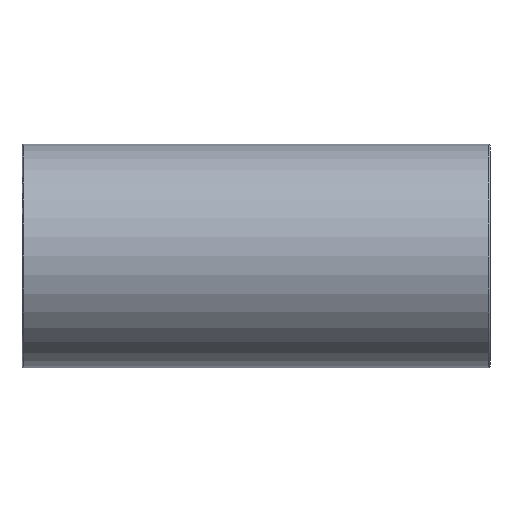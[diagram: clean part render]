
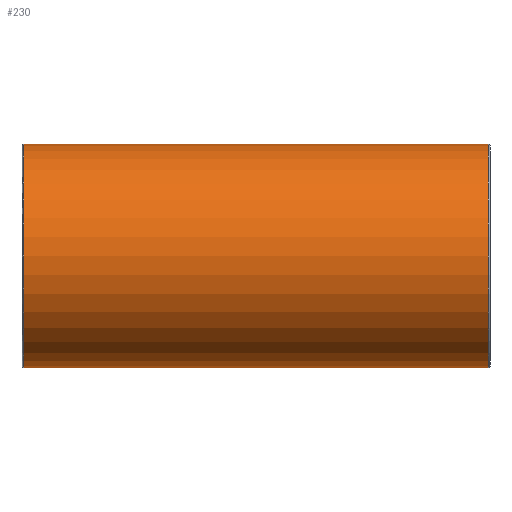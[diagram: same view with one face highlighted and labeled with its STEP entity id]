
A CAD part, front view. The second image highlights one B-rep face of the part: STEP entity #230.
In plain terms, the highlighted cylindrical face has radius 11 mm (diameter 22 mm), a full revolution.
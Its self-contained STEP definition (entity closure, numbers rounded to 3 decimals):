
#26=FACE_BOUND('',#93,.T.);
#27=FACE_BOUND('',#94,.T.);
#46=CIRCLE('',#255,11.);
#47=CIRCLE('',#256,11.);
#63=CYLINDRICAL_SURFACE('',#254,11.);
#72=FACE_OUTER_BOUND('',#92,.T.);
#92=EDGE_LOOP('',(#184));
#93=EDGE_LOOP('',(#185,#186));
#94=EDGE_LOOP('',(#187));
#130=ELLIPSE('',#250,16.094,11.);
#132=ELLIPSE('',#252,16.094,11.);
#136=VERTEX_POINT('',#426);
#137=VERTEX_POINT('',#427);
#138=VERTEX_POINT('',#483);
#139=VERTEX_POINT('',#485);
#157=EDGE_CURVE('',#136,#137,#130,.T.);
#159=EDGE_CURVE('',#137,#136,#132,.T.);
#161=EDGE_CURVE('',#138,#138,#46,.T.);
#162=EDGE_CURVE('',#139,#139,#47,.T.);
#184=ORIENTED_EDGE('',*,*,#161,.F.);
#185=ORIENTED_EDGE('',*,*,#159,.F.);
#186=ORIENTED_EDGE('',*,*,#157,.F.);
#187=ORIENTED_EDGE('',*,*,#162,.F.);
#230=ADVANCED_FACE('',(#72,#26,#27),#63,.T.);
#250=AXIS2_PLACEMENT_3D('',#428,#293,#294);
#252=AXIS2_PLACEMENT_3D('',#480,#297,#298);
#254=AXIS2_PLACEMENT_3D('',#482,#301,#302);
#255=AXIS2_PLACEMENT_3D('',#484,#303,#304);
#256=AXIS2_PLACEMENT_3D('',#486,#305,#306);
#293=DIRECTION('center_axis',(-0.684,0.73,0.));
#294=DIRECTION('ref_axis',(0.73,0.684,0.));
#297=DIRECTION('center_axis',(0.684,0.73,0.));
#298=DIRECTION('ref_axis',(-0.73,0.684,0.));
#301=DIRECTION('center_axis',(1.,0.,0.));
#302=DIRECTION('ref_axis',(0.,1.,0.));
#303=DIRECTION('center_axis',(-1.,0.,0.));
#304=DIRECTION('ref_axis',(0.,-1.,0.));
#305=DIRECTION('center_axis',(1.,0.,0.));
#306=DIRECTION('ref_axis',(0.,-1.,0.));
#426=CARTESIAN_POINT('',(0.,0.,11.));
#427=CARTESIAN_POINT('',(0.,0.,-11.));
#428=CARTESIAN_POINT('Origin',(0.,0.,0.));
#480=CARTESIAN_POINT('Origin',(0.,0.,0.));
#482=CARTESIAN_POINT('Origin',(0.,0.,
0.));
#483=CARTESIAN_POINT('',(-22.851,11.,0.));
#484=CARTESIAN_POINT('Origin',(-22.851,0.,0.));
#485=CARTESIAN_POINT('',(22.851,11.,0.));
#486=CARTESIAN_POINT('Origin',(22.851,0.,0.));
